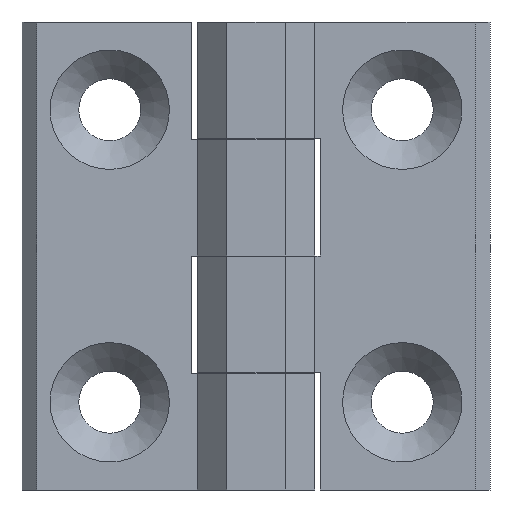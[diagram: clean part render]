
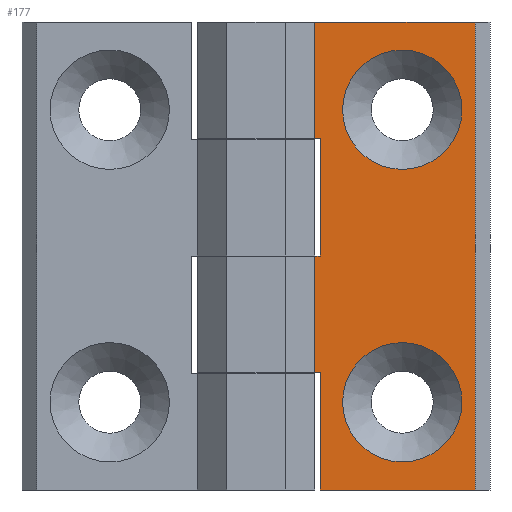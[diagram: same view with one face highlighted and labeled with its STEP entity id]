
A CAD part, front view. The second image highlights one B-rep face of the part: STEP entity #177.
In plain terms, the highlighted planar face has unit normal (0, -1, 0).
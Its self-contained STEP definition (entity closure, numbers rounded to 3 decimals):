
#177 = ADVANCED_FACE( '', ( #265, #266, #267 ), #268, .F. );
#265 = FACE_BOUND( '', #451, .T. );
#266 = FACE_BOUND( '', #452, .T. );
#267 = FACE_OUTER_BOUND( '', #453, .T. );
#268 = PLANE( '', #454 );
#451 = EDGE_LOOP( '', ( #679 ) );
#452 = EDGE_LOOP( '', ( #680 ) );
#453 = EDGE_LOOP( '', ( #681, #682, #683, #684, #685, #686, #687, #688, #689, #690 ) );
#454 = AXIS2_PLACEMENT_3D( '', #691, #692, #693 );
#679 = ORIENTED_EDGE( '', *, *, #1231, .T. );
#680 = ORIENTED_EDGE( '', *, *, #1232, .T. );
#681 = ORIENTED_EDGE( '', *, *, #1233, .F. );
#682 = ORIENTED_EDGE( '', *, *, #1234, .F. );
#683 = ORIENTED_EDGE( '', *, *, #1235, .F. );
#684 = ORIENTED_EDGE( '', *, *, #1236, .T. );
#685 = ORIENTED_EDGE( '', *, *, #1237, .F. );
#686 = ORIENTED_EDGE( '', *, *, #1238, .F. );
#687 = ORIENTED_EDGE( '', *, *, #1239, .T. );
#688 = ORIENTED_EDGE( '', *, *, #1230, .F. );
#689 = ORIENTED_EDGE( '', *, *, #1240, .F. );
#690 = ORIENTED_EDGE( '', *, *, #1241, .T. );
#691 = CARTESIAN_POINT( '', ( 5., 0.5, 40. ) );
#692 = DIRECTION( '', ( 0., 1., 0. ) );
#693 = DIRECTION( '', ( -1., 0., 0. ) );
#1230 = EDGE_CURVE( '', #1434, #1432, #1436, .T. );
#1231 = EDGE_CURVE( '', #1437, #1437, #1438, .T. );
#1232 = EDGE_CURVE( '', #1439, #1439, #1440, .T. );
#1233 = EDGE_CURVE( '', #1441, #1442, #1443, .T. );
#1234 = EDGE_CURVE( '', #1444, #1441, #1445, .T. );
#1235 = EDGE_CURVE( '', #1446, #1444, #1447, .T. );
#1236 = EDGE_CURVE( '', #1446, #1448, #1449, .T. );
#1237 = EDGE_CURVE( '', #1450, #1448, #1451, .T. );
#1238 = EDGE_CURVE( '', #1452, #1450, #1453, .T. );
#1239 = EDGE_CURVE( '', #1452, #1432, #1454, .T. );
#1240 = EDGE_CURVE( '', #1455, #1434, #1456, .T. );
#1241 = EDGE_CURVE( '', #1455, #1442, #1457, .T. );
#1432 = VERTEX_POINT( '', #1760 );
#1434 = VERTEX_POINT( '', #1763 );
#1436 = LINE( '', #1766, #1767 );
#1437 = VERTEX_POINT( '', #1768 );
#1438 = CIRCLE( '', #1769, 5.1 );
#1439 = VERTEX_POINT( '', #1770 );
#1440 = CIRCLE( '', #1771, 5.1 );
#1441 = VERTEX_POINT( '', #1772 );
#1442 = VERTEX_POINT( '', #1773 );
#1443 = LINE( '', #1774, #1775 );
#1444 = VERTEX_POINT( '', #1776 );
#1445 = LINE( '', #1777, #1778 );
#1446 = VERTEX_POINT( '', #1779 );
#1447 = LINE( '', #1780, #1781 );
#1448 = VERTEX_POINT( '', #1782 );
#1449 = LINE( '', #1783, #1784 );
#1450 = VERTEX_POINT( '', #1785 );
#1451 = LINE( '', #1786, #1787 );
#1452 = VERTEX_POINT( '', #1788 );
#1453 = LINE( '', #1789, #1790 );
#1454 = LINE( '', #1791, #1792 );
#1455 = VERTEX_POINT( '', #1793 );
#1456 = LINE( '', #1794, #1795 );
#1457 = LINE( '', #1796, #1797 );
#1760 = CARTESIAN_POINT( '', ( 18.75, 0.5, 0. ) );
#1763 = CARTESIAN_POINT( '', ( 18.75, 0.5, 40. ) );
#1766 = CARTESIAN_POINT( '', ( 18.75, 0.5, 40. ) );
#1767 = VECTOR( '', #2178, 1000. );
#1768 = CARTESIAN_POINT( '', ( 12.5, 0.5, 37.6 ) );
#1769 = AXIS2_PLACEMENT_3D( '', #2179, #2180, #2181 );
#1770 = CARTESIAN_POINT( '', ( 12.5, 0.5, 12.6 ) );
#1771 = AXIS2_PLACEMENT_3D( '', #2182, #2183, #2184 );
#1772 = CARTESIAN_POINT( '', ( 5.5, 0.5, 30.05 ) );
#1773 = CARTESIAN_POINT( '', ( 5., 0.5, 30.05 ) );
#1774 = CARTESIAN_POINT( '', ( 5., 0.5, 30.05 ) );
#1775 = VECTOR( '', #2185, 1000. );
#1776 = CARTESIAN_POINT( '', ( 5.5, 0.5, 20. ) );
#1777 = CARTESIAN_POINT( '', ( 5.5, 0.5, 40. ) );
#1778 = VECTOR( '', #2186, 1000. );
#1779 = CARTESIAN_POINT( '', ( 5., 0.5, 20. ) );
#1780 = CARTESIAN_POINT( '', ( 5., 0.5, 20. ) );
#1781 = VECTOR( '', #2187, 1000. );
#1782 = CARTESIAN_POINT( '', ( 5., 0.5, 10.05 ) );
#1783 = CARTESIAN_POINT( '', ( 5., 0.5, 40. ) );
#1784 = VECTOR( '', #2188, 1000. );
#1785 = CARTESIAN_POINT( '', ( 5.5, 0.5, 10.05 ) );
#1786 = CARTESIAN_POINT( '', ( 5., 0.5, 10.05 ) );
#1787 = VECTOR( '', #2189, 1000. );
#1788 = CARTESIAN_POINT( '', ( 5.5, 0.5, 0. ) );
#1789 = CARTESIAN_POINT( '', ( 5.5, 0.5, 40. ) );
#1790 = VECTOR( '', #2190, 1000. );
#1791 = CARTESIAN_POINT( '', ( 5., 0.5, 0. ) );
#1792 = VECTOR( '', #2191, 1000. );
#1793 = CARTESIAN_POINT( '', ( 5., 0.5, 40. ) );
#1794 = CARTESIAN_POINT( '', ( 5., 0.5, 40. ) );
#1795 = VECTOR( '', #2192, 1000. );
#1796 = CARTESIAN_POINT( '', ( 5., 0.5, 40. ) );
#1797 = VECTOR( '', #2193, 1000. );
#2178 = DIRECTION( '', ( 0., 0., -1. ) );
#2179 = CARTESIAN_POINT( '', ( 12.5, 0.5, 32.5 ) );
#2180 = DIRECTION( '', ( 0., 1., 0. ) );
#2181 = DIRECTION( '', ( 0., 0., 1. ) );
#2182 = CARTESIAN_POINT( '', ( 12.5, 0.5, 7.5 ) );
#2183 = DIRECTION( '', ( 0., 1., 0. ) );
#2184 = DIRECTION( '', ( 0., 0., 1. ) );
#2185 = DIRECTION( '', ( -1., 0., 0. ) );
#2186 = DIRECTION( '', ( 0., 0., 1. ) );
#2187 = DIRECTION( '', ( 1., 0., 0. ) );
#2188 = DIRECTION( '', ( 0., 0., -1. ) );
#2189 = DIRECTION( '', ( -1., 0., 0. ) );
#2190 = DIRECTION( '', ( 0., 0., 1. ) );
#2191 = DIRECTION( '', ( 1., 0., 0. ) );
#2192 = DIRECTION( '', ( 1., 0., 0. ) );
#2193 = DIRECTION( '', ( 0., 0., -1. ) );
